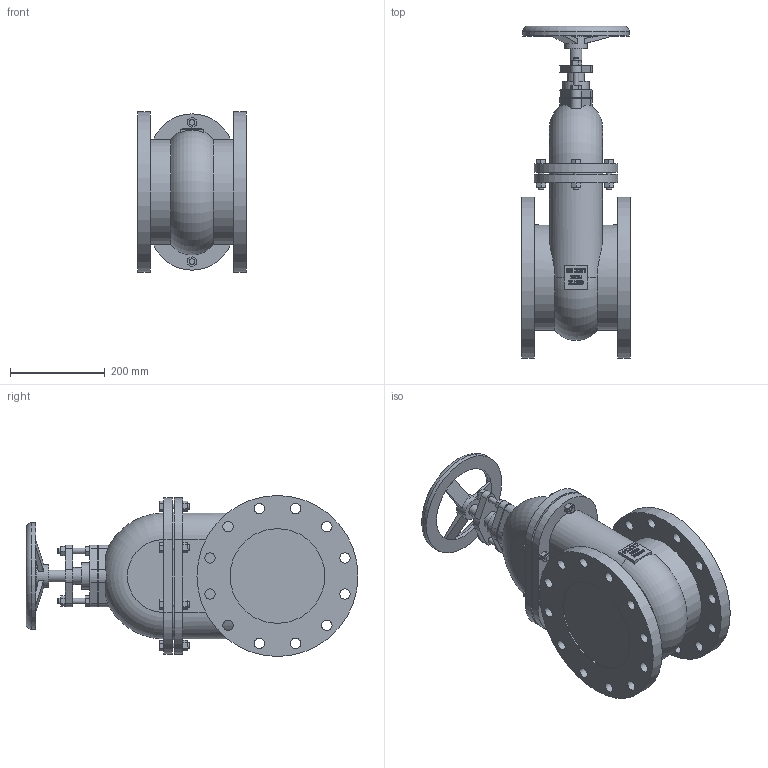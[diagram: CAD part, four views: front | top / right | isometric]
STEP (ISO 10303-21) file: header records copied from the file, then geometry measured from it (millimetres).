
FILE_DESCRIPTION(/* description */ (''),/* implementation_level */ '2;1');
FILE_NAME(/* name */ '292NOD-DN200-PN10 - 12168457.stp',/* time_stamp */ '2024-06-20T11:29:56+02:00',/* author */ ('roger.thijssen'),/* organization */ (''),/* preprocessor_version */ 'ST-DEVELOPER v20',/* originating_system */ 'Autodesk Inventor 2024',/* authorisation */ '');
FILE_SCHEMA (('AUTOMOTIVE_DESIGN { 1 0 10303 214 3 1 1 }'));
Length unit declared in the file: millimetre
Products named in the file (1): 292N-DN200-PN10
Bounding box: 230 x 701 x 340 mm (x, y, z)
Volume: 20472340.3 mm3; surface area: 896682.6 mm2
Topology: 1 solids, 1 shells, 455 faces, 1179 edges, 785 vertices
Faces by surface type: plane 281, cylinder 88, bspline 80, torus 4, cone 2
Full cylindrical faces by diameter (mm): 12 x18, 22 x24, 25 x1, 36 x1, 48 x1, 55 x1, 66 x1, 165 x1, 200 x2, 222 x2, 225 x1, 340 x2
Entity records: 15365 total; most frequent: CARTESIAN_POINT 3884, ORIENTED_EDGE 2358, DIRECTION 1967, EDGE_CURVE 1179, LINE 797, VECTOR 797, VERTEX_POINT 785, EDGE_LOOP 588
